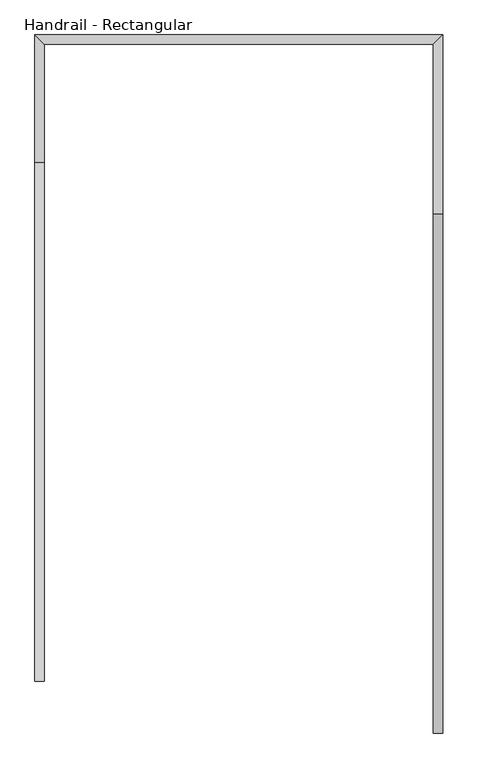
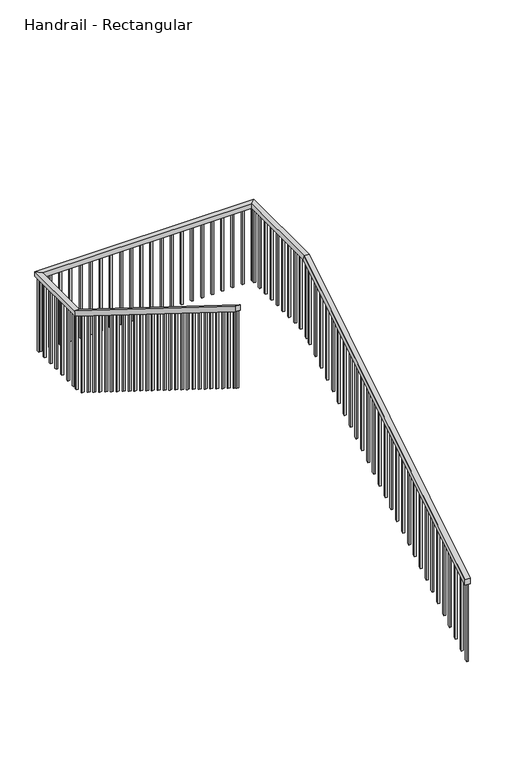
"""IFC4 building model written with IfcOpenShell, lengths in millimetres: railing geometry, Handrail - Rectangular."""

from ifc_helpers import new_model, si_unit, frame, origin, place, context, project, spatial, polyline, outline, extrude, faceted_brep, source, transform, mapped, element, save


def handrail_rectangular_92576db8(model_context):
    return source(origin(), model_context, "Body", "SolidModel", [
        faceted_brep([(-9583.6769643, 3822.2975872, 1088.5714286), (-9634.4769643, 3822.2975872, 1088.5714286), (-9634.4769643, 3822.2975872, 1028.7093152), (-9583.6769643, 3822.2975872, 1028.7093152), (-9583.6769643, 6616.2975872, 2830.2857143), (-9634.4769643, 6616.2975872, 2830.2857143), (-9634.4769643, 6630.8347273, 2779.4857143), (-9583.6769643, 6630.8347273, 2779.4857143), (-9583.6769643, 7581.4975872, 2830.2857143), (-9634.4769643, 7530.6975872, 2830.2857143), (-9634.4769643, 7530.6975872, 2779.4857143), (-9583.6769643, 7581.4975872, 2779.4857143), (-11779.3058351, 7581.4975872, 2830.2857143), (-11728.5058351, 7530.6975872, 2830.2857143), (-11728.5058351, 7530.6975872, 2779.4857143), (-11779.3058351, 7581.4975872, 2779.4857143), (-11779.3058351, 6895.6975872, 2830.2857143), (-11728.5058351, 6895.6975872, 2830.2857143), (-11728.5058351, 6881.160447, 2779.4857143), (-11779.3058351, 6881.160447, 2779.4857143), (-11779.3058351, 4101.6975872, 4572.0), (-11779.3058351, 4101.6975872, 4512.1378867), (-11728.5058351, 4101.6975872, 4512.1378867), (-11728.5058351, 4101.6975872, 4572.0)], [[[0, 1, 2, 3]], [[1, 0, 4, 5]], [[2, 1, 5, 6]], [[3, 2, 6, 7]], [[0, 3, 7, 4]], [[5, 4, 8, 9]], [[6, 5, 9, 10]], [[7, 6, 10, 11]], [[4, 7, 11, 8]], [[9, 8, 12, 13]], [[10, 9, 13, 14]], [[11, 10, 14, 15]], [[8, 11, 15, 12]], [[13, 12, 16, 17]], [[14, 13, 17, 18]], [[15, 14, 18, 19]], [[12, 15, 19, 16]], [[20, 21, 22, 23]], [[17, 16, 20, 23]], [[18, 17, 23, 22]], [[19, 18, 22, 21]], [[16, 19, 21, 20]]]),
        extrude(outline(polyline([(4142.9725872, 4486.4080165), (4162.0225872, 4474.5326919), (4162.0225872, 3659.5762072), (4142.9725872, 3671.4515318), (4142.9725872, 4486.4080165)])), frame((-11763.4308351, 0.0, 0.0), z_axis=(1.0, 0.0, 0.0), x_axis=(0.0, 1.0, 0.0)), (0.0, 0.0, 1.0), 19.05),
        extrude(outline(polyline([(4244.5725872, 4423.0729516), (4263.6225872, 4411.1976269), (4263.6225872, 3596.2411422), (4244.5725872, 3608.1164669), (4244.5725872, 4423.0729516)])), frame((-11763.4308351, 0.0, 0.0), z_axis=(1.0, 0.0, 0.0), x_axis=(0.0, 1.0, 0.0)), (0.0, 0.0, 1.0), 19.05),
        extrude(outline(polyline([(4346.1725872, 4359.7378867), (4365.2225872, 4347.862562), (4365.2225872, 3532.9060773), (4346.1725872, 3544.781402), (4346.1725872, 4359.7378867)])), frame((-11763.4308351, 0.0, 0.0), z_axis=(1.0, 0.0, 0.0), x_axis=(0.0, 1.0, 0.0)), (0.0, 0.0, 1.0), 19.05),
        extrude(outline(polyline([(4447.7725872, 4296.4028217), (4466.8225872, 4284.5274971), (4466.8225872, 3469.5710124), (4447.7725872, 3481.446337), (4447.7725872, 4296.4028217)])), frame((-11763.4308351, 0.0, 0.0), z_axis=(1.0, 0.0, 0.0), x_axis=(0.0, 1.0, 0.0)), (0.0, 0.0, 1.0), 19.05),
        extrude(outline(polyline([(4549.3725872, 4233.0677568), (4568.4225872, 4221.1924321), (4568.4225872, 3406.2359474), (4549.3725872, 3418.1112721), (4549.3725872, 4233.0677568)])), frame((-11763.4308351, 0.0, 0.0), z_axis=(1.0, 0.0, 0.0), x_axis=(0.0, 1.0, 0.0)), (0.0, 0.0, 1.0), 19.05),
        extrude(outline(polyline([(4650.9725872, 4169.7326919), (4670.0225872, 4157.8573672), (4670.0225872, 3342.9008825), (4650.9725872, 3354.7762072), (4650.9725872, 4169.7326919)])), frame((-11763.4308351, 0.0, 0.0), z_axis=(1.0, 0.0, 0.0), x_axis=(0.0, 1.0, 0.0)), (0.0, 0.0, 1.0), 19.05),
        extrude(outline(polyline([(4752.5725872, 4106.3976269), (4771.6225872, 4094.5223023), (4771.6225872, 3279.5658175), (4752.5725872, 3291.4411422), (4752.5725872, 4106.3976269)])), frame((-11763.4308351, 0.0, 0.0), z_axis=(1.0, 0.0, 0.0), x_axis=(0.0, 1.0, 0.0)), (0.0, 0.0, 1.0), 19.05),
        extrude(outline(polyline([(4854.1725872, 4043.062562), (4873.2225872, 4031.1872373), (4873.2225872, 3216.2307526), (4854.1725872, 3228.1060773), (4854.1725872, 4043.062562)])), frame((-11763.4308351, 0.0, 0.0), z_axis=(1.0, 0.0, 0.0), x_axis=(0.0, 1.0, 0.0)), (0.0, 0.0, 1.0), 19.05),
        extrude(outline(polyline([(4955.7725872, 3979.7274971), (4974.8225872, 3967.8521724), (4974.8225872, 3152.8956877), (4955.7725872, 3164.7710124), (4955.7725872, 3979.7274971)])), frame((-11763.4308351, 0.0, 0.0), z_axis=(1.0, 0.0, 0.0), x_axis=(0.0, 1.0, 0.0)), (0.0, 0.0, 1.0), 19.05),
        extrude(outline(polyline([(5057.3725872, 3916.3924321), (5076.4225872, 3904.5171074), (5076.4225872, 3089.5606227), (5057.3725872, 3101.4359474), (5057.3725872, 3916.3924321)])), frame((-11763.4308351, 0.0, 0.0), z_axis=(1.0, 0.0, 0.0), x_axis=(0.0, 1.0, 0.0)), (0.0, 0.0, 1.0), 19.05),
        extrude(outline(polyline([(5158.9725872, 3853.0573672), (5178.0225872, 3841.1820425), (5178.0225872, 3026.2255578), (5158.9725872, 3038.1008825), (5158.9725872, 3853.0573672)])), frame((-11763.4308351, 0.0, 0.0), z_axis=(1.0, 0.0, 0.0), x_axis=(0.0, 1.0, 0.0)), (0.0, 0.0, 1.0), 19.05),
        extrude(outline(polyline([(5260.5725872, 3789.7223023), (5279.6225872, 3777.8469776), (5279.6225872, 2962.8904929), (5260.5725872, 2974.7658175), (5260.5725872, 3789.7223023)])), frame((-11763.4308351, 0.0, 0.0), z_axis=(1.0, 0.0, 0.0), x_axis=(0.0, 1.0, 0.0)), (0.0, 0.0, 1.0), 19.05),
        extrude(outline(polyline([(5362.1725872, 3726.3872373), (5381.2225872, 3714.5119126), (5381.2225872, 2899.5554279), (5362.1725872, 2911.4307526), (5362.1725872, 3726.3872373)])), frame((-11763.4308351, 0.0, 0.0), z_axis=(1.0, 0.0, 0.0), x_axis=(0.0, 1.0, 0.0)), (0.0, 0.0, 1.0), 19.05),
        extrude(outline(polyline([(5463.7725872, 3663.0521724), (5482.8225872, 3651.1768477), (5482.8225872, 2836.220363), (5463.7725872, 2848.0956877), (5463.7725872, 3663.0521724)])), frame((-11763.4308351, 0.0, 0.0), z_axis=(1.0, 0.0, 0.0), x_axis=(0.0, 1.0, 0.0)), (0.0, 0.0, 1.0), 19.05),
        extrude(outline(polyline([(5565.3725872, 3599.7171074), (5584.4225872, 3587.8417828), (5584.4225872, 2772.8852981), (5565.3725872, 2784.7606227), (5565.3725872, 3599.7171074)])), frame((-11763.4308351, 0.0, 0.0), z_axis=(1.0, 0.0, 0.0), x_axis=(0.0, 1.0, 0.0)), (0.0, 0.0, 1.0), 19.05),
        extrude(outline(polyline([(5666.9725872, 3536.3820425), (5686.0225872, 3524.5067178), (5686.0225872, 2709.5502331), (5666.9725872, 2721.4255578), (5666.9725872, 3536.3820425)])), frame((-11763.4308351, 0.0, 0.0), z_axis=(1.0, 0.0, 0.0), x_axis=(0.0, 1.0, 0.0)), (0.0, 0.0, 1.0), 19.05),
        extrude(outline(polyline([(5768.5725872, 3473.0469776), (5787.6225872, 3461.1716529), (5787.6225872, 2646.2151682), (5768.5725872, 2658.0904929), (5768.5725872, 3473.0469776)])), frame((-11763.4308351, 0.0, 0.0), z_axis=(1.0, 0.0, 0.0), x_axis=(0.0, 1.0, 0.0)), (0.0, 0.0, 1.0), 19.05),
        extrude(outline(polyline([(5870.1725872, 3409.7119126), (5889.2225872, 3397.836588), (5889.2225872, 2582.8801033), (5870.1725872, 2594.7554279), (5870.1725872, 3409.7119126)])), frame((-11763.4308351, 0.0, 0.0), z_axis=(1.0, 0.0, 0.0), x_axis=(0.0, 1.0, 0.0)), (0.0, 0.0, 1.0), 19.05),
        extrude(outline(polyline([(5971.7725872, 3346.3768477), (5990.8225872, 3334.501523), (5990.8225872, 2519.5450383), (5971.7725872, 2531.420363), (5971.7725872, 3346.3768477)])), frame((-11763.4308351, 0.0, 0.0), z_axis=(1.0, 0.0, 0.0), x_axis=(0.0, 1.0, 0.0)), (0.0, 0.0, 1.0), 19.05),
        extrude(outline(polyline([(6073.3725872, 3283.0417828), (6092.4225872, 3271.1664581), (6092.4225872, 2456.2099734), (6073.3725872, 2468.0852981), (6073.3725872, 3283.0417828)])), frame((-11763.4308351, 0.0, 0.0), z_axis=(1.0, 0.0, 0.0), x_axis=(0.0, 1.0, 0.0)), (0.0, 0.0, 1.0), 19.05),
        extrude(outline(polyline([(6174.9725872, 3219.7067178), (6194.0225872, 3207.8313932), (6194.0225872, 2392.8749085), (6174.9725872, 2404.7502331), (6174.9725872, 3219.7067178)])), frame((-11763.4308351, 0.0, 0.0), z_axis=(1.0, 0.0, 0.0), x_axis=(0.0, 1.0, 0.0)), (0.0, 0.0, 1.0), 19.05),
        extrude(outline(polyline([(6276.5725872, 3156.3716529), (6295.6225872, 3144.4963282), (6295.6225872, 2329.5398435), (6276.5725872, 2341.4151682), (6276.5725872, 3156.3716529)])), frame((-11763.4308351, 0.0, 0.0), z_axis=(1.0, 0.0, 0.0), x_axis=(0.0, 1.0, 0.0)), (0.0, 0.0, 1.0), 19.05),
        extrude(outline(polyline([(6378.1725872, 3093.036588), (6397.2225872, 3081.1612633), (6397.2225872, 2266.2047786), (6378.1725872, 2278.0801033), (6378.1725872, 3093.036588)])), frame((-11763.4308351, 0.0, 0.0), z_axis=(1.0, 0.0, 0.0), x_axis=(0.0, 1.0, 0.0)), (0.0, 0.0, 1.0), 19.05),
        extrude(outline(polyline([(6479.7725872, 3029.701523), (6498.8225872, 3017.8261984), (6498.8225872, 2202.8697137), (6479.7725872, 2214.7450383), (6479.7725872, 3029.701523)])), frame((-11763.4308351, 0.0, 0.0), z_axis=(1.0, 0.0, 0.0), x_axis=(0.0, 1.0, 0.0)), (0.0, 0.0, 1.0), 19.05),
        extrude(outline(polyline([(6581.3725872, 2966.3664581), (6600.4225872, 2954.4911334), (6600.4225872, 2139.5346487), (6581.3725872, 2151.4099734), (6581.3725872, 2966.3664581)])), frame((-11763.4308351, 0.0, 0.0), z_axis=(1.0, 0.0, 0.0), x_axis=(0.0, 1.0, 0.0)), (0.0, 0.0, 1.0), 19.05),
        extrude(outline(polyline([(6682.9725872, 2903.0313932), (6702.0225872, 2891.1560685), (6702.0225872, 2076.1995838), (6682.9725872, 2088.0749085), (6682.9725872, 2903.0313932)])), frame((-11763.4308351, 0.0, 0.0), z_axis=(1.0, 0.0, 0.0), x_axis=(0.0, 1.0, 0.0)), (0.0, 0.0, 1.0), 19.05),
        extrude(outline(polyline([(6784.5725872, 2839.6963282), (6803.6225872, 2827.8210036), (6803.6225872, 2012.8645188), (6784.5725872, 2024.7398435), (6784.5725872, 2839.6963282)])), frame((-11763.4308351, 0.0, 0.0), z_axis=(1.0, 0.0, 0.0), x_axis=(0.0, 1.0, 0.0)), (0.0, 0.0, 1.0), 19.05),
        extrude(outline(polyline([(-11763.4308351, 6956.0225872), (-11744.3808351, 6956.0225872), (-11744.3808351, 6936.9725872), (-11763.4308351, 6936.9725872), (-11763.4308351, 6956.0225872)])), frame((0.0, 0.0, 1992.0857143), z_axis=(0.0, 0.0, 1.0), x_axis=(1.0, 0.0, 0.0)), (0.0, 0.0, 1.0), 787.4),
        extrude(outline(polyline([(-11763.4308351, 7057.6225872), (-11744.3808351, 7057.6225872), (-11744.3808351, 7038.5725872), (-11763.4308351, 7038.5725872), (-11763.4308351, 7057.6225872)])), frame((0.0, 0.0, 1992.0857143), z_axis=(0.0, 0.0, 1.0), x_axis=(1.0, 0.0, 0.0)), (0.0, 0.0, 1.0), 787.4),
        extrude(outline(polyline([(-11763.4308351, 7159.2225872), (-11744.3808351, 7159.2225872), (-11744.3808351, 7140.1725872), (-11763.4308351, 7140.1725872), (-11763.4308351, 7159.2225872)])), frame((0.0, 0.0, 1992.0857143), z_axis=(0.0, 0.0, 1.0), x_axis=(1.0, 0.0, 0.0)), (0.0, 0.0, 1.0), 787.4),
        extrude(outline(polyline([(-11763.4308351, 7260.8225872), (-11744.3808351, 7260.8225872), (-11744.3808351, 7241.7725872), (-11763.4308351, 7241.7725872), (-11763.4308351, 7260.8225872)])), frame((0.0, 0.0, 1992.0857143), z_axis=(0.0, 0.0, 1.0), x_axis=(1.0, 0.0, 0.0)), (0.0, 0.0, 1.0), 787.4),
        extrude(outline(polyline([(-11763.4308351, 7362.4225872), (-11744.3808351, 7362.4225872), (-11744.3808351, 7343.3725872), (-11763.4308351, 7343.3725872), (-11763.4308351, 7362.4225872)])), frame((0.0, 0.0, 1992.0857143), z_axis=(0.0, 0.0, 1.0), x_axis=(1.0, 0.0, 0.0)), (0.0, 0.0, 1.0), 787.4),
        extrude(outline(polyline([(-11763.4308351, 7464.0225872), (-11744.3808351, 7464.0225872), (-11744.3808351, 7444.9725872), (-11763.4308351, 7444.9725872), (-11763.4308351, 7464.0225872)])), frame((0.0, 0.0, 1992.0857143), z_axis=(0.0, 0.0, 1.0), x_axis=(1.0, 0.0, 0.0)), (0.0, 0.0, 1.0), 787.4),
        extrude(outline(polyline([(-11733.1519643, 7565.6225872), (-11733.1519643, 7546.5725872), (-11752.2019643, 7546.5725872), (-11752.2019643, 7565.6225872), (-11733.1519643, 7565.6225872)])), frame((0.0, 0.0, 1992.0857143), z_axis=(0.0, 0.0, 1.0), x_axis=(1.0, 0.0, 0.0)), (0.0, 0.0, 1.0), 787.4),
        extrude(outline(polyline([(-11631.5519643, 7565.6225872), (-11631.5519643, 7546.5725872), (-11650.6019643, 7546.5725872), (-11650.6019643, 7565.6225872), (-11631.5519643, 7565.6225872)])), frame((0.0, 0.0, 1992.0857143), z_axis=(0.0, 0.0, 1.0), x_axis=(1.0, 0.0, 0.0)), (0.0, 0.0, 1.0), 787.4),
        extrude(outline(polyline([(-11529.9519643, 7565.6225872), (-11529.9519643, 7546.5725872), (-11549.0019643, 7546.5725872), (-11549.0019643, 7565.6225872), (-11529.9519643, 7565.6225872)])), frame((0.0, 0.0, 1992.0857143), z_axis=(0.0, 0.0, 1.0), x_axis=(1.0, 0.0, 0.0)), (0.0, 0.0, 1.0), 787.4),
        extrude(outline(polyline([(-11428.3519643, 7565.6225872), (-11428.3519643, 7546.5725872), (-11447.4019643, 7546.5725872), (-11447.4019643, 7565.6225872), (-11428.3519643, 7565.6225872)])), frame((0.0, 0.0, 1992.0857143), z_axis=(0.0, 0.0, 1.0), x_axis=(1.0, 0.0, 0.0)), (0.0, 0.0, 1.0), 787.4),
        extrude(outline(polyline([(-11326.7519643, 7565.6225872), (-11326.7519643, 7546.5725872), (-11345.8019643, 7546.5725872), (-11345.8019643, 7565.6225872), (-11326.7519643, 7565.6225872)])), frame((0.0, 0.0, 1992.0857143), z_axis=(0.0, 0.0, 1.0), x_axis=(1.0, 0.0, 0.0)), (0.0, 0.0, 1.0), 787.4),
        extrude(outline(polyline([(-11225.1519643, 7565.6225872), (-11225.1519643, 7546.5725872), (-11244.2019643, 7546.5725872), (-11244.2019643, 7565.6225872), (-11225.1519643, 7565.6225872)])), frame((0.0, 0.0, 1992.0857143), z_axis=(0.0, 0.0, 1.0), x_axis=(1.0, 0.0, 0.0)), (0.0, 0.0, 1.0), 787.4),
        extrude(outline(polyline([(-11123.5519643, 7565.6225872), (-11123.5519643, 7546.5725872), (-11142.6019643, 7546.5725872), (-11142.6019643, 7565.6225872), (-11123.5519643, 7565.6225872)])), frame((0.0, 0.0, 1992.0857143), z_axis=(0.0, 0.0, 1.0), x_axis=(1.0, 0.0, 0.0)), (0.0, 0.0, 1.0), 787.4),
        extrude(outline(polyline([(-11021.9519643, 7565.6225872), (-11021.9519643, 7546.5725872), (-11041.0019643, 7546.5725872), (-11041.0019643, 7565.6225872), (-11021.9519643, 7565.6225872)])), frame((0.0, 0.0, 1992.0857143), z_axis=(0.0, 0.0, 1.0), x_axis=(1.0, 0.0, 0.0)), (0.0, 0.0, 1.0), 787.4),
        extrude(outline(polyline([(-10920.3519643, 7565.6225872), (-10920.3519643, 7546.5725872), (-10939.4019643, 7546.5725872), (-10939.4019643, 7565.6225872), (-10920.3519643, 7565.6225872)])), frame((0.0, 0.0, 1992.0857143), z_axis=(0.0, 0.0, 1.0), x_axis=(1.0, 0.0, 0.0)), (0.0, 0.0, 1.0), 787.4),
        extrude(outline(polyline([(-10818.7519643, 7565.6225872), (-10818.7519643, 7546.5725872), (-10837.8019643, 7546.5725872), (-10837.8019643, 7565.6225872), (-10818.7519643, 7565.6225872)])), frame((0.0, 0.0, 1992.0857143), z_axis=(0.0, 0.0, 1.0), x_axis=(1.0, 0.0, 0.0)), (0.0, 0.0, 1.0), 787.4),
        extrude(outline(polyline([(-10717.1519643, 7565.6225872), (-10717.1519643, 7546.5725872), (-10736.2019643, 7546.5725872), (-10736.2019643, 7565.6225872), (-10717.1519643, 7565.6225872)])), frame((0.0, 0.0, 1992.0857143), z_axis=(0.0, 0.0, 1.0), x_axis=(1.0, 0.0, 0.0)), (0.0, 0.0, 1.0), 787.4),
        extrude(outline(polyline([(-10615.5519643, 7565.6225872), (-10615.5519643, 7546.5725872), (-10634.6019643, 7546.5725872), (-10634.6019643, 7565.6225872), (-10615.5519643, 7565.6225872)])), frame((0.0, 0.0, 1992.0857143), z_axis=(0.0, 0.0, 1.0), x_axis=(1.0, 0.0, 0.0)), (0.0, 0.0, 1.0), 787.4),
        extrude(outline(polyline([(-10513.9519643, 7565.6225872), (-10513.9519643, 7546.5725872), (-10533.0019643, 7546.5725872), (-10533.0019643, 7565.6225872), (-10513.9519643, 7565.6225872)])), frame((0.0, 0.0, 1992.0857143), z_axis=(0.0, 0.0, 1.0), x_axis=(1.0, 0.0, 0.0)), (0.0, 0.0, 1.0), 787.4),
        extrude(outline(polyline([(-10412.3519643, 7565.6225872), (-10412.3519643, 7546.5725872), (-10431.4019643, 7546.5725872), (-10431.4019643, 7565.6225872), (-10412.3519643, 7565.6225872)])), frame((0.0, 0.0, 1992.0857143), z_axis=(0.0, 0.0, 1.0), x_axis=(1.0, 0.0, 0.0)), (0.0, 0.0, 1.0), 787.4),
        extrude(outline(polyline([(-10310.7519643, 7565.6225872), (-10310.7519643, 7546.5725872), (-10329.8019643, 7546.5725872), (-10329.8019643, 7565.6225872), (-10310.7519643, 7565.6225872)])), frame((0.0, 0.0, 1992.0857143), z_axis=(0.0, 0.0, 1.0), x_axis=(1.0, 0.0, 0.0)), (0.0, 0.0, 1.0), 787.4),
        extrude(outline(polyline([(-10209.1519643, 7565.6225872), (-10209.1519643, 7546.5725872), (-10228.2019643, 7546.5725872), (-10228.2019643, 7565.6225872), (-10209.1519643, 7565.6225872)])), frame((0.0, 0.0, 1992.0857143), z_axis=(0.0, 0.0, 1.0), x_axis=(1.0, 0.0, 0.0)), (0.0, 0.0, 1.0), 787.4),
        extrude(outline(polyline([(-10107.5519643, 7565.6225872), (-10107.5519643, 7546.5725872), (-10126.6019643, 7546.5725872), (-10126.6019643, 7565.6225872), (-10107.5519643, 7565.6225872)])), frame((0.0, 0.0, 1992.0857143), z_axis=(0.0, 0.0, 1.0), x_axis=(1.0, 0.0, 0.0)), (0.0, 0.0, 1.0), 787.4),
        extrude(outline(polyline([(-10005.9519643, 7565.6225872), (-10005.9519643, 7546.5725872), (-10025.0019643, 7546.5725872), (-10025.0019643, 7565.6225872), (-10005.9519643, 7565.6225872)])), frame((0.0, 0.0, 1992.0857143), z_axis=(0.0, 0.0, 1.0), x_axis=(1.0, 0.0, 0.0)), (0.0, 0.0, 1.0), 787.4),
        extrude(outline(polyline([(-9904.3519643, 7565.6225872), (-9904.3519643, 7546.5725872), (-9923.4019643, 7546.5725872), (-9923.4019643, 7565.6225872), (-9904.3519643, 7565.6225872)])), frame((0.0, 0.0, 1992.0857143), z_axis=(0.0, 0.0, 1.0), x_axis=(1.0, 0.0, 0.0)), (0.0, 0.0, 1.0), 787.4),
        extrude(outline(polyline([(-9802.7519643, 7565.6225872), (-9802.7519643, 7546.5725872), (-9821.8019643, 7546.5725872), (-9821.8019643, 7565.6225872), (-9802.7519643, 7565.6225872)])), frame((0.0, 0.0, 1992.0857143), z_axis=(0.0, 0.0, 1.0), x_axis=(1.0, 0.0, 0.0)), (0.0, 0.0, 1.0), 787.4),
        extrude(outline(polyline([(-9701.1519643, 7565.6225872), (-9701.1519643, 7546.5725872), (-9720.2019643, 7546.5725872), (-9720.2019643, 7565.6225872), (-9701.1519643, 7565.6225872)])), frame((0.0, 0.0, 1992.0857143), z_axis=(0.0, 0.0, 1.0), x_axis=(1.0, 0.0, 0.0)), (0.0, 0.0, 1.0), 787.4),
        extrude(outline(polyline([(-9599.5519643, 7521.1725872), (-9618.6019643, 7521.1725872), (-9618.6019643, 7540.2225872), (-9599.5519643, 7540.2225872), (-9599.5519643, 7521.1725872)])), frame((0.0, 0.0, 1992.0857143), z_axis=(0.0, 0.0, 1.0), x_axis=(1.0, 0.0, 0.0)), (0.0, 0.0, 1.0), 787.4),
        extrude(outline(polyline([(-9599.5519643, 7419.5725872), (-9618.6019643, 7419.5725872), (-9618.6019643, 7438.6225872), (-9599.5519643, 7438.6225872), (-9599.5519643, 7419.5725872)])), frame((0.0, 0.0, 1992.0857143), z_axis=(0.0, 0.0, 1.0), x_axis=(1.0, 0.0, 0.0)), (0.0, 0.0, 1.0), 787.4),
        extrude(outline(polyline([(-9599.5519643, 7317.9725872), (-9618.6019643, 7317.9725872), (-9618.6019643, 7337.0225872), (-9599.5519643, 7337.0225872), (-9599.5519643, 7317.9725872)])), frame((0.0, 0.0, 1992.0857143), z_axis=(0.0, 0.0, 1.0), x_axis=(1.0, 0.0, 0.0)), (0.0, 0.0, 1.0), 787.4),
        extrude(outline(polyline([(-9599.5519643, 7216.3725872), (-9618.6019643, 7216.3725872), (-9618.6019643, 7235.4225872), (-9599.5519643, 7235.4225872), (-9599.5519643, 7216.3725872)])), frame((0.0, 0.0, 1992.0857143), z_axis=(0.0, 0.0, 1.0), x_axis=(1.0, 0.0, 0.0)), (0.0, 0.0, 1.0), 787.4),
        extrude(outline(polyline([(-9599.5519643, 7114.7725872), (-9618.6019643, 7114.7725872), (-9618.6019643, 7133.8225872), (-9599.5519643, 7133.8225872), (-9599.5519643, 7114.7725872)])), frame((0.0, 0.0, 1992.0857143), z_axis=(0.0, 0.0, 1.0), x_axis=(1.0, 0.0, 0.0)), (0.0, 0.0, 1.0), 787.4),
        extrude(outline(polyline([(-9599.5519643, 7013.1725872), (-9618.6019643, 7013.1725872), (-9618.6019643, 7032.2225872), (-9599.5519643, 7032.2225872), (-9599.5519643, 7013.1725872)])), frame((0.0, 0.0, 1992.0857143), z_axis=(0.0, 0.0, 1.0), x_axis=(1.0, 0.0, 0.0)), (0.0, 0.0, 1.0), 787.4),
        extrude(outline(polyline([(-9599.5519643, 6911.5725872), (-9618.6019643, 6911.5725872), (-9618.6019643, 6930.6225872), (-9599.5519643, 6930.6225872), (-9599.5519643, 6911.5725872)])), frame((0.0, 0.0, 1992.0857143), z_axis=(0.0, 0.0, 1.0), x_axis=(1.0, 0.0, 0.0)), (0.0, 0.0, 1.0), 787.4),
        extrude(outline(polyline([(-9599.5519643, 6809.9725872), (-9618.6019643, 6809.9725872), (-9618.6019643, 6829.0225872), (-9599.5519643, 6829.0225872), (-9599.5519643, 6809.9725872)])), frame((0.0, 0.0, 1992.0857143), z_axis=(0.0, 0.0, 1.0), x_axis=(1.0, 0.0, 0.0)), (0.0, 0.0, 1.0), 787.4),
        extrude(outline(polyline([(-9599.5519643, 6708.3725872), (-9618.6019643, 6708.3725872), (-9618.6019643, 6727.4225872), (-9599.5519643, 6727.4225872), (-9599.5519643, 6708.3725872)])), frame((0.0, 0.0, 1992.0857143), z_axis=(0.0, 0.0, 1.0), x_axis=(1.0, 0.0, 0.0)), (0.0, 0.0, 1.0), 787.4),
        extrude(outline(polyline([(6555.9725872, 2732.8184061), (6575.0225872, 2744.6937308), (6575.0225872, 1929.7372461), (6555.9725872, 1917.8619214), (6555.9725872, 2732.8184061)])), frame((-9618.6019643, 0.0, 0.0), z_axis=(1.0, 0.0, 0.0), x_axis=(0.0, 1.0, 0.0)), (0.0, 0.0, 1.0), 19.05),
        extrude(outline(polyline([(6454.3725872, 2669.4833412), (6473.4225872, 2681.3586659), (6473.4225872, 1866.4021812), (6454.3725872, 1854.5268565), (6454.3725872, 2669.4833412)])), frame((-9618.6019643, 0.0, 0.0), z_axis=(1.0, 0.0, 0.0), x_axis=(0.0, 1.0, 0.0)), (0.0, 0.0, 1.0), 19.05),
        extrude(outline(polyline([(6352.7725872, 2606.1482763), (6371.8225872, 2618.023601), (6371.8225872, 1803.0671162), (6352.7725872, 1791.1917916), (6352.7725872, 2606.1482763)])), frame((-9618.6019643, 0.0, 0.0), z_axis=(1.0, 0.0, 0.0), x_axis=(0.0, 1.0, 0.0)), (0.0, 0.0, 1.0), 19.05),
        extrude(outline(polyline([(6251.1725872, 2542.8132113), (6270.2225872, 2554.688536), (6270.2225872, 1739.7320513), (6251.1725872, 1727.8567266), (6251.1725872, 2542.8132113)])), frame((-9618.6019643, 0.0, 0.0), z_axis=(1.0, 0.0, 0.0), x_axis=(0.0, 1.0, 0.0)), (0.0, 0.0, 1.0), 19.05),
        extrude(outline(polyline([(6149.5725872, 2479.4781464), (6168.6225872, 2491.3534711), (6168.6225872, 1676.3969864), (6149.5725872, 1664.5216617), (6149.5725872, 2479.4781464)])), frame((-9618.6019643, 0.0, 0.0), z_axis=(1.0, 0.0, 0.0), x_axis=(0.0, 1.0, 0.0)), (0.0, 0.0, 1.0), 19.05),
        extrude(outline(polyline([(6047.9725872, 2416.1430815), (6067.0225872, 2428.0184061), (6067.0225872, 1613.0619214), (6047.9725872, 1601.1865968), (6047.9725872, 2416.1430815)])), frame((-9618.6019643, 0.0, 0.0), z_axis=(1.0, 0.0, 0.0), x_axis=(0.0, 1.0, 0.0)), (0.0, 0.0, 1.0), 19.05),
        extrude(outline(polyline([(5946.3725872, 2352.8080165), (5965.4225872, 2364.6833412), (5965.4225872, 1549.7268565), (5946.3725872, 1537.8515318), (5946.3725872, 2352.8080165)])), frame((-9618.6019643, 0.0, 0.0), z_axis=(1.0, 0.0, 0.0), x_axis=(0.0, 1.0, 0.0)), (0.0, 0.0, 1.0), 19.05),
        extrude(outline(polyline([(5844.7725872, 2289.4729516), (5863.8225872, 2301.3482763), (5863.8225872, 1486.3917916), (5844.7725872, 1474.5164669), (5844.7725872, 2289.4729516)])), frame((-9618.6019643, 0.0, 0.0), z_axis=(1.0, 0.0, 0.0), x_axis=(0.0, 1.0, 0.0)), (0.0, 0.0, 1.0), 19.05),
        extrude(outline(polyline([(5743.1725872, 2226.1378867), (5762.2225872, 2238.0132113), (5762.2225872, 1423.0567266), (5743.1725872, 1411.181402), (5743.1725872, 2226.1378867)])), frame((-9618.6019643, 0.0, 0.0), z_axis=(1.0, 0.0, 0.0), x_axis=(0.0, 1.0, 0.0)), (0.0, 0.0, 1.0), 19.05),
        extrude(outline(polyline([(5641.5725872, 2162.8028217), (5660.6225872, 2174.6781464), (5660.6225872, 1359.7216617), (5641.5725872, 1347.846337), (5641.5725872, 2162.8028217)])), frame((-9618.6019643, 0.0, 0.0), z_axis=(1.0, 0.0, 0.0), x_axis=(0.0, 1.0, 0.0)), (0.0, 0.0, 1.0), 19.05),
        extrude(outline(polyline([(5539.9725872, 2099.4677568), (5559.0225872, 2111.3430815), (5559.0225872, 1296.3865968), (5539.9725872, 1284.5112721), (5539.9725872, 2099.4677568)])), frame((-9618.6019643, 0.0, 0.0), z_axis=(1.0, 0.0, 0.0), x_axis=(0.0, 1.0, 0.0)), (0.0, 0.0, 1.0), 19.05),
        extrude(outline(polyline([(5438.3725872, 2036.1326919), (5457.4225872, 2048.0080165), (5457.4225872, 1233.0515318), (5438.3725872, 1221.1762072), (5438.3725872, 2036.1326919)])), frame((-9618.6019643, 0.0, 0.0), z_axis=(1.0, 0.0, 0.0), x_axis=(0.0, 1.0, 0.0)), (0.0, 0.0, 1.0), 19.05),
        extrude(outline(polyline([(5336.7725872, 1972.7976269), (5355.8225872, 1984.6729516), (5355.8225872, 1169.7164669), (5336.7725872, 1157.8411422), (5336.7725872, 1972.7976269)])), frame((-9618.6019643, 0.0, 0.0), z_axis=(1.0, 0.0, 0.0), x_axis=(0.0, 1.0, 0.0)), (0.0, 0.0, 1.0), 19.05),
        extrude(outline(polyline([(5235.1725872, 1909.462562), (5254.2225872, 1921.3378867), (5254.2225872, 1106.381402), (5235.1725872, 1094.5060773), (5235.1725872, 1909.462562)])), frame((-9618.6019643, 0.0, 0.0), z_axis=(1.0, 0.0, 0.0), x_axis=(0.0, 1.0, 0.0)), (0.0, 0.0, 1.0), 19.05),
        extrude(outline(polyline([(5133.5725872, 1846.1274971), (5152.6225872, 1858.0028217), (5152.6225872, 1043.046337), (5133.5725872, 1031.1710124), (5133.5725872, 1846.1274971)])), frame((-9618.6019643, 0.0, 0.0), z_axis=(1.0, 0.0, 0.0), x_axis=(0.0, 1.0, 0.0)), (0.0, 0.0, 1.0), 19.05),
        extrude(outline(polyline([(5031.9725872, 1782.7924321), (5051.0225872, 1794.6677568), (5051.0225872, 979.7112721), (5031.9725872, 967.8359474), (5031.9725872, 1782.7924321)])), frame((-9618.6019643, 0.0, 0.0), z_axis=(1.0, 0.0, 0.0), x_axis=(0.0, 1.0, 0.0)), (0.0, 0.0, 1.0), 19.05),
        extrude(outline(polyline([(4930.3725872, 1719.4573672), (4949.4225872, 1731.3326919), (4949.4225872, 916.3762072), (4930.3725872, 904.5008825), (4930.3725872, 1719.4573672)])), frame((-9618.6019643, 0.0, 0.0), z_axis=(1.0, 0.0, 0.0), x_axis=(0.0, 1.0, 0.0)), (0.0, 0.0, 1.0), 19.05),
        extrude(outline(polyline([(4828.7725872, 1656.1223023), (4847.8225872, 1667.9976269), (4847.8225872, 853.0411422), (4828.7725872, 841.1658175), (4828.7725872, 1656.1223023)])), frame((-9618.6019643, 0.0, 0.0), z_axis=(1.0, 0.0, 0.0), x_axis=(0.0, 1.0, 0.0)), (0.0, 0.0, 1.0), 19.05),
        extrude(outline(polyline([(4727.1725872, 1592.7872373), (4746.2225872, 1604.662562), (4746.2225872, 789.7060773), (4727.1725872, 777.8307526), (4727.1725872, 1592.7872373)])), frame((-9618.6019643, 0.0, 0.0), z_axis=(1.0, 0.0, 0.0), x_axis=(0.0, 1.0, 0.0)), (0.0, 0.0, 1.0), 19.05),
        extrude(outline(polyline([(4625.5725872, 1529.4521724), (4644.6225872, 1541.3274971), (4644.6225872, 726.3710124), (4625.5725872, 714.4956877), (4625.5725872, 1529.4521724)])), frame((-9618.6019643, 0.0, 0.0), z_axis=(1.0, 0.0, 0.0), x_axis=(0.0, 1.0, 0.0)), (0.0, 0.0, 1.0), 19.05),
        extrude(outline(polyline([(4523.9725872, 1466.1171074), (4543.0225872, 1477.9924321), (4543.0225872, 663.0359474), (4523.9725872, 651.1606227), (4523.9725872, 1466.1171074)])), frame((-9618.6019643, 0.0, 0.0), z_axis=(1.0, 0.0, 0.0), x_axis=(0.0, 1.0, 0.0)), (0.0, 0.0, 1.0), 19.05),
        extrude(outline(polyline([(4422.3725872, 1402.7820425), (4441.4225872, 1414.6573672), (4441.4225872, 599.7008825), (4422.3725872, 587.8255578), (4422.3725872, 1402.7820425)])), frame((-9618.6019643, 0.0, 0.0), z_axis=(1.0, 0.0, 0.0), x_axis=(0.0, 1.0, 0.0)), (0.0, 0.0, 1.0), 19.05),
        extrude(outline(polyline([(4320.7725872, 1339.4469776), (4339.8225872, 1351.3223023), (4339.8225872, 536.3658175), (4320.7725872, 524.4904929), (4320.7725872, 1339.4469776)])), frame((-9618.6019643, 0.0, 0.0), z_axis=(1.0, 0.0, 0.0), x_axis=(0.0, 1.0, 0.0)), (0.0, 0.0, 1.0), 19.05),
        extrude(outline(polyline([(4219.1725872, 1276.1119126), (4238.2225872, 1287.9872373), (4238.2225872, 473.0307526), (4219.1725872, 461.1554279), (4219.1725872, 1276.1119126)])), frame((-9618.6019643, 0.0, 0.0), z_axis=(1.0, 0.0, 0.0), x_axis=(0.0, 1.0, 0.0)), (0.0, 0.0, 1.0), 19.05),
        extrude(outline(polyline([(4117.5725872, 1212.7768477), (4136.6225872, 1224.6521724), (4136.6225872, 409.6956877), (4117.5725872, 397.820363), (4117.5725872, 1212.7768477)])), frame((-9618.6019643, 0.0, 0.0), z_axis=(1.0, 0.0, 0.0), x_axis=(0.0, 1.0, 0.0)), (0.0, 0.0, 1.0), 19.05),
        extrude(outline(polyline([(4015.9725872, 1149.4417828), (4035.0225872, 1161.3171074), (4035.0225872, 346.3606227), (4015.9725872, 334.4852981), (4015.9725872, 1149.4417828)])), frame((-9618.6019643, 0.0, 0.0), z_axis=(1.0, 0.0, 0.0), x_axis=(0.0, 1.0, 0.0)), (0.0, 0.0, 1.0), 19.05),
        extrude(outline(polyline([(3914.3725872, 1086.1067178), (3933.4225872, 1097.9820425), (3933.4225872, 283.0255578), (3914.3725872, 271.1502331), (3914.3725872, 1086.1067178)])), frame((-9618.6019643, 0.0, 0.0), z_axis=(1.0, 0.0, 0.0), x_axis=(0.0, 1.0, 0.0)), (0.0, 0.0, 1.0), 19.05),
        extrude(outline(polyline([(-11763.4308351, 6905.2225872), (-11744.3808351, 6905.2225872), (-11744.3808351, 6886.1725872), (-11763.4308351, 6886.1725872), (-11763.4308351, 6905.2225872)])), frame((0.0, 0.0, 1992.0857143), z_axis=(0.0, 0.0, 1.0), x_axis=(1.0, 0.0, 0.0)), (0.0, 0.0, 1.0), 787.4),
        extrude(outline(polyline([(-11744.3808351, 7565.6225872), (-11744.3808351, 7546.5725872), (-11763.4308351, 7546.5725872), (-11763.4308351, 7565.6225872), (-11744.3808351, 7565.6225872)])), frame((0.0, 0.0, 1992.0857143), z_axis=(0.0, 0.0, 1.0), x_axis=(1.0, 0.0, 0.0)), (0.0, 0.0, 1.0), 787.4),
        extrude(outline(polyline([(-9599.5519643, 7546.5725872), (-9618.6019643, 7546.5725872), (-9618.6019643, 7565.6225872), (-9599.5519643, 7565.6225872), (-9599.5519643, 7546.5725872)])), frame((0.0, 0.0, 1992.0857143), z_axis=(0.0, 0.0, 1.0), x_axis=(1.0, 0.0, 0.0)), (0.0, 0.0, 1.0), 787.4),
        extrude(outline(polyline([(6606.7725872, 2764.4859386), (6625.8225872, 2776.3612633), (6625.8225872, 1961.4047786), (6606.7725872, 1949.5294539), (6606.7725872, 2764.4859386)])), frame((-9618.6019643, 0.0, 0.0), z_axis=(1.0, 0.0, 0.0), x_axis=(0.0, 1.0, 0.0)), (0.0, 0.0, 1.0), 19.05),
        extrude(outline(polyline([(4101.6975872, 4512.1378867), (4120.7475872, 4500.262562), (4120.7475872, 3685.3060773), (4101.6975872, 3697.181402), (4101.6975872, 4512.1378867)])), frame((-11763.4308351, 0.0, 0.0), z_axis=(1.0, 0.0, 0.0), x_axis=(0.0, 1.0, 0.0)), (0.0, 0.0, 1.0), 19.05),
        extrude(outline(polyline([(3822.2975872, 1028.7093152), (3841.3475872, 1040.5846399), (3841.3475872, 225.6281552), (3822.2975872, 213.7528305), (3822.2975872, 1028.7093152)])), frame((-9618.6019643, 0.0, 0.0), z_axis=(1.0, 0.0, 0.0), x_axis=(0.0, 1.0, 0.0)), (0.0, 0.0, 1.0), 19.05),
    ])


if __name__ == "__main__":
    model = new_model("IFC4")
    model_context = context("Model", 3, world=origin())
    ifc_project = project(units=[si_unit("LENGTHUNIT", "METRE", prefix="MILLI")], contexts=[model_context])
    site = spatial("IfcSite", under=ifc_project)
    building = spatial("IfcBuilding", under=site)
    placement = place(None, origin())
    handrail_rectangular_shape = handrail_rectangular_92576db8(model_context)
    element("IfcRailing", 1, ObjectType="Handrail - Rectangular", at=placement, inside=building, context=model_context, shape_type="MappedRepresentation", body=[
        mapped(handrail_rectangular_shape, transform((0.0, 0.0, 0.0), x_axis=(1.0, 0.0, 0.0), y_axis=(0.0, 1.0, 0.0), z_axis=(0.0, 0.0, 1.0))),
    ])
    save(model, "model.ifc")
